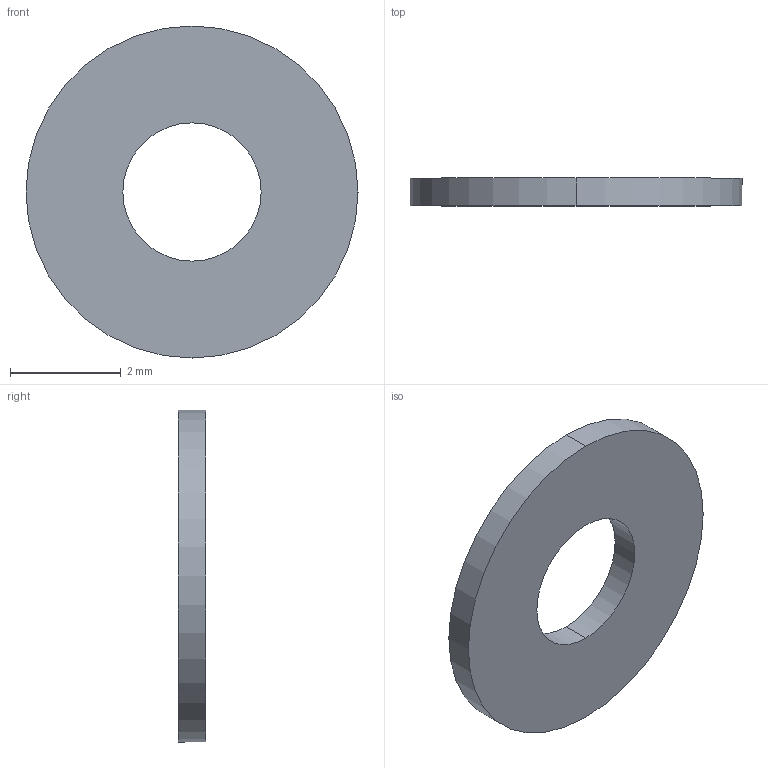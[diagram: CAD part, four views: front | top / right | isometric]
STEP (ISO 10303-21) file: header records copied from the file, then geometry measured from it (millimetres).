
FILE_DESCRIPTION (( 'STEP AP203' ), '1' );
FILE_NAME ('Default.step', '2018-07-08T17:17:52', ( '' ), ( '' ), 'SwSTEP 2.0', 'SolidWorks 2017', '' );
FILE_SCHEMA (( 'CONFIG_CONTROL_DESIGN' ));
Length unit declared in the file: millimetre
Products named in the file (1): Default
Bounding box: 6 x 0.5 x 6 mm (x, y, z)
Volume: 11.7 mm3; surface area: 60.1 mm2
Topology: 1 solids, 1 shells, 6 faces, 12 edges, 8 vertices
Faces by surface type: cylinder 4, plane 2
Entity records: 245 total; most frequent: DIRECTION 34, CARTESIAN_POINT 27, ORIENTED_EDGE 24, AXIS2_PLACEMENT_3D 15, EDGE_CURVE 12, EDGE_LOOP 8, CIRCLE 8, VERTEX_POINT 8
